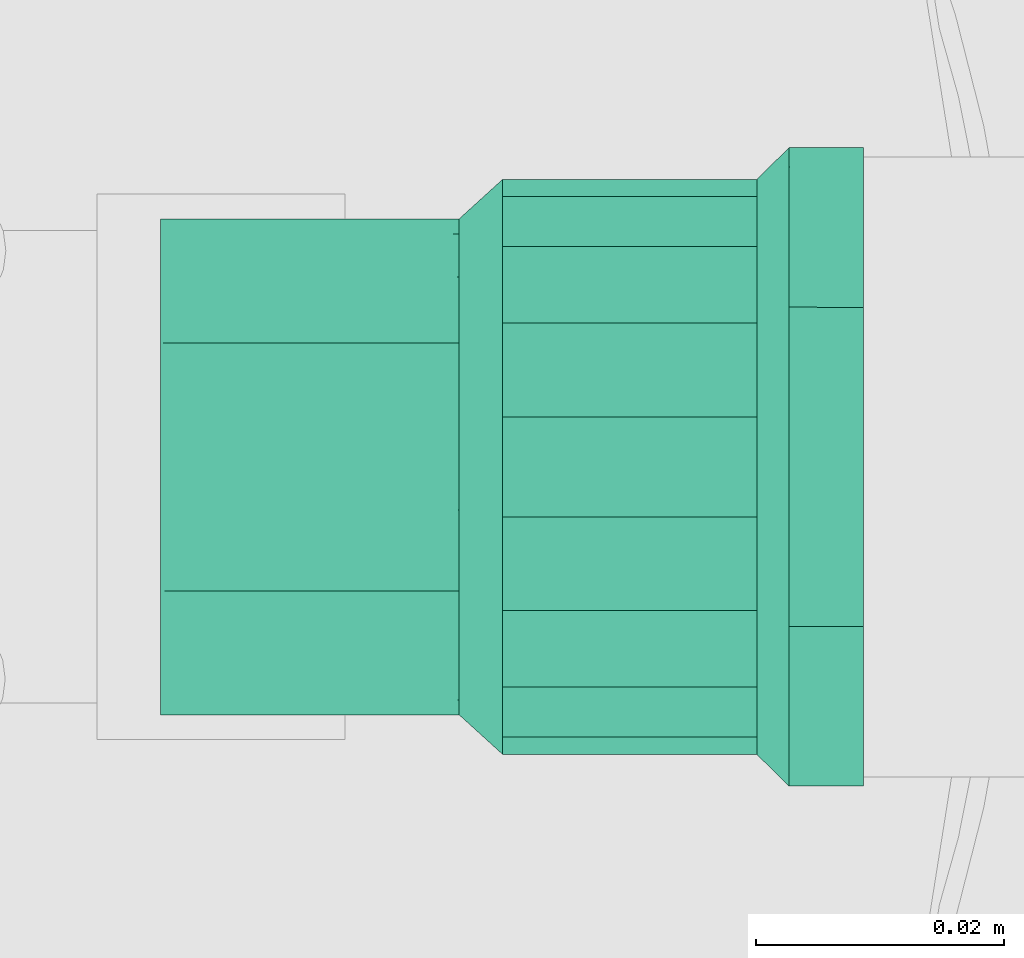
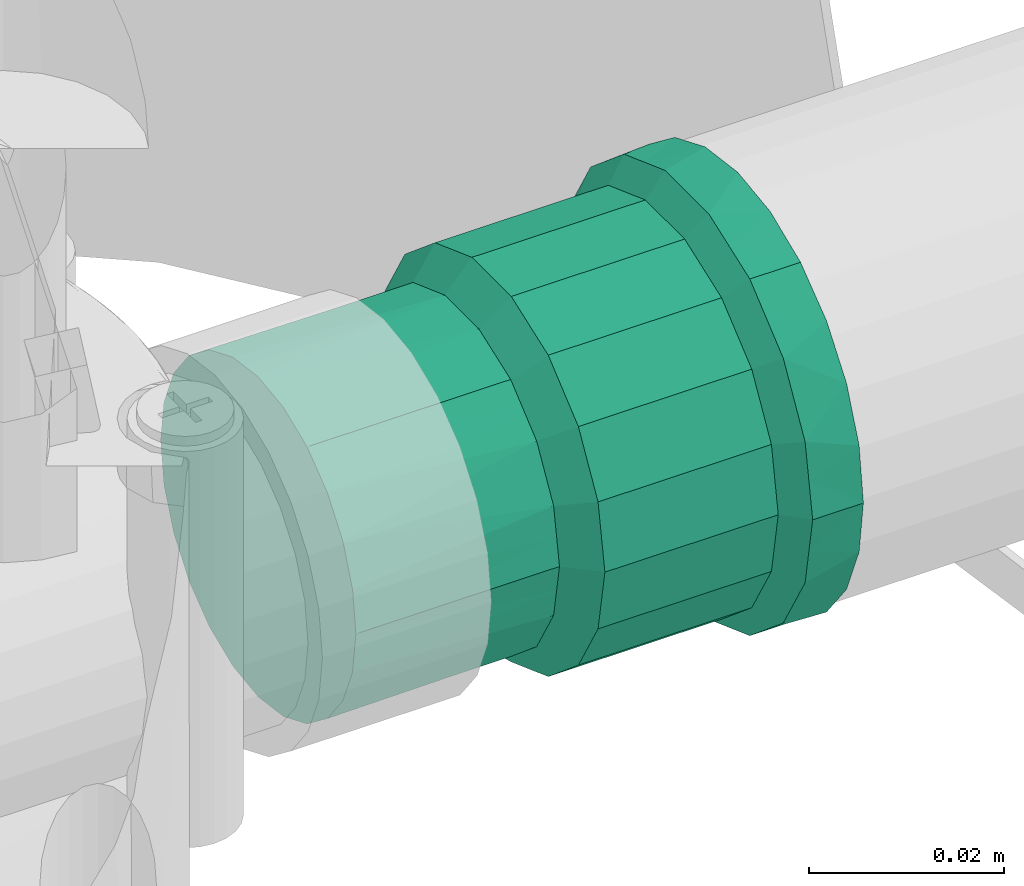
# One storey, part 160 of 166: 1 flow fitting.
"""IFC2X3 building model written with IfcOpenShell, lengths in metres."""

from ifc_helpers import new_model, entity, si_unit, converted_unit, direction, frame, origin, place, context, subcontext, project, spatial, faceted_brep, source, transform, mapped, material, type_object, type_shapes, element, save


model = new_model("IFC2X3")

# Units and contexts
model_context = context("Model", 3, precision=1e-05, world=origin(), true_north=direction((6.123233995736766e-17, 1.0)))
body_context = subcontext(model_context, "Body", "Model", "MODEL_VIEW")
ifc_project = project(units=[si_unit("LENGTHUNIT", "METRE"), converted_unit("PLANEANGLEUNIT", "DEGREE", entity("IfcPlaneAngleMeasure", 0.017453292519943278), si_unit("PLANEANGLEUNIT", "RADIAN"), dimensions=[0, 0, 0, 0, 0, 0, 0]), si_unit("AREAUNIT", "SQUARE_METRE")], contexts=[model_context])

# Site, building, storey
site_placement = place(None, origin())
site = spatial("IfcSite", under=ifc_project, at=site_placement, Name="Default", CompositionType="ELEMENT")
building_placement = place(site_placement, origin())
building = spatial("IfcBuilding", under=site, at=building_placement, Name="CASA DE ACOLHIDA PARA IDOSOS", CompositionType="ELEMENT")
storey_placement = place(building_placement, frame((0.0, 0.0, -1.7499999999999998)))
storey = spatial("IfcBuildingStorey", under=building, at=storey_placement, Name="IMPLANTAÇÃO DRENAGEM", CompositionType="ELEMENT", Elevation=-1.7499999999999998)

# Flow fitting
ifc_material = material(Name="PVC Marrom")
pipe_fitting_type = type_object("IfcPipeFittingType", Name="AF_Soldavel_Adaptador Curto com Bolsa e Rosca:Standard", PredefinedType="NOTDEFINED", material=ifc_material)
shared_shape = source(origin(), body_context, "Body", "Brep", [
    faceted_brep([(0.0, -0.012875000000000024, -0.02230015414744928), (0.0, -0.018207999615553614, -0.018207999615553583), (0.0, -0.0099999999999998, -0.017320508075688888), (0.0, -0.0051763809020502, -0.019318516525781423), (0.0, -0.006664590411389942, -0.0248725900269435), (0.0, -0.014142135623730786, -0.014142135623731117), (0.0, -0.022300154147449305, -0.01287499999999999), (0.0, -0.01732050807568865, -0.01000000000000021), (0.0, -0.0193185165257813, -0.005176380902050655), (0.0, -0.02487259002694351, -0.006664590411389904), (0.0, -0.02, 0.0), (0.0, -0.025750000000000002, 0.0), (0.0, -0.019318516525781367, 0.00517638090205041), (0.0, -0.024872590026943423, 0.006664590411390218), (0.0, -0.01732050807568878, 0.00999999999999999), (0.0, -0.02230015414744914, 0.012875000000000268), (0.0, -0.014142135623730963, 0.014142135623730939), (0.0, -0.018207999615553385, 0.018207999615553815), (0.0, -0.010000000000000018, 0.017320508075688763), (0.0, -0.012874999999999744, 0.022300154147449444), (0.0, -0.00517638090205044, 0.01931851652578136), (0.0, -0.006664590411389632, 0.024872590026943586), (0.0, 0.0, 0.02), (0.0, 0.0, 0.025750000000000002), (0.0, 0.005176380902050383, 0.019318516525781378), (0.0, 0.0066645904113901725, 0.024872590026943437), (0.0, 0.009999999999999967, 0.017320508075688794), (0.0, 0.012875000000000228, 0.022300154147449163), (0.0, 0.01414213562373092, 0.014142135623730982), (0.0, 0.01820799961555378, 0.01820799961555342), (0.0, 0.01732050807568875, 0.010000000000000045), (0.0, 0.02230015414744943, 0.012874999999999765), (0.0, 0.024872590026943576, 0.006664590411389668), (0.0, 0.01931851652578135, 0.005176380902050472), (0.0, 0.025750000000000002, 0.0), (0.0, 0.02, 0.0), (0.0, 0.02487259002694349, -0.006664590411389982), (0.0, 0.01931851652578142, -0.005176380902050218), (0.0, 0.02230015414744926, -0.012875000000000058), (0.0, 0.01732050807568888, -0.009999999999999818), (0.0, 0.01820799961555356, -0.018207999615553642), (0.0, 0.014142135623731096, -0.014142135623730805), (0.0, 0.012874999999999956, -0.022300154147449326), (0.0, 0.010000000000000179, -0.01732050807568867), (0.0, 0.006664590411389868, -0.024872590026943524), (0.0, 0.005176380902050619, -0.01931851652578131), (0.0, 0.0, -0.025750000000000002), (0.0, 0.0, -0.02), (0.005999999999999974, 0.024196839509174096, 0.008807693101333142), (0.005999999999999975, 0.024768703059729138, 0.005564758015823), (0.005999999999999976, 0.024973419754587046, 0.00440384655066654), (0.005999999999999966, 0.016298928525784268, 0.019427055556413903), (0.005999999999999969, 0.019724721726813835, 0.016552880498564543), (0.005999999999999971, 0.021960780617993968, 0.012680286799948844), (0.00599999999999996, 0.008670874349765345, 0.02383026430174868), (0.005999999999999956, 0.004468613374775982, 0.02535929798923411), (0.0059999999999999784, 0.025750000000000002, 0.0), (0.0059999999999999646, 0.01287313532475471, 0.02230123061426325), (0.00599999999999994, -0.012878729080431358, 0.022298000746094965), (0.005999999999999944, -0.008676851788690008, 0.023828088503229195), (0.005999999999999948, -0.004474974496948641, 0.02535817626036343), (0.005999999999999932, -0.019728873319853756, 0.016547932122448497), (0.005999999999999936, -0.016303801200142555, 0.019422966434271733), (0.0059999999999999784, -0.025750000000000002, 0.0), (0.005999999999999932, -0.024199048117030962, 0.008801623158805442), (0.005999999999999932, -0.021963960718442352, 0.012674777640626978), (0.0059999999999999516, -3.180561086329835e-06, 0.02535873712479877), (0.006000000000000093, -0.024199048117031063, -0.00880162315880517), (0.006000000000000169, -0.01630380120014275, -0.019422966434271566), (0.006000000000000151, -0.019728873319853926, -0.016547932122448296), (0.006000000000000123, -0.021963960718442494, -0.012674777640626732), (0.006000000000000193, -0.008676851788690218, -0.023828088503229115), (0.006000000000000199, -0.004474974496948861, -0.025358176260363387), (0.006000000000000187, -0.012878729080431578, -0.02229800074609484), (0.006000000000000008, 0.02497341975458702, -0.004403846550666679), (0.0060000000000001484, 0.012873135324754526, -0.022301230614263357), (0.006000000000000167, 0.008670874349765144, -0.023830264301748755), (0.006000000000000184, 0.004468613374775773, -0.02535929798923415), (0.006000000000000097, 0.01972472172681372, -0.016552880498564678), (0.006000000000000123, 0.016298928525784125, -0.019427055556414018), (0.006000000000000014, 0.024768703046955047, -0.005564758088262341), (0.006000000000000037, 0.024196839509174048, -0.008807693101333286), (0.006000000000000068, 0.021960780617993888, -0.012680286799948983), (0.006000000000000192, -3.1805610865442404e-06, -0.02535873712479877), (0.02909999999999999, 0.022482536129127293, 0.004068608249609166), (0.02910000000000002, 0.023200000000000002, 0.0), (0.00860000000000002, 0.023200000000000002, 0.0), (0.008600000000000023, 0.022500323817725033, 0.003967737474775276), (0.008600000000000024, 0.021800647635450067, 0.007935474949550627), (0.029099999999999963, 0.021800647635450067, 0.007935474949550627), (0.02909999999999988, 0.014684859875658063, 0.017503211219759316), (0.029099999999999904, 0.017771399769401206, 0.014913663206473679), (0.008600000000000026, 0.017771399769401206, 0.014913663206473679), (0.00860000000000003, 0.014684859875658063, 0.017503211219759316), (0.00860000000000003, 0.011598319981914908, 0.020092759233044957), (0.02909999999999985, 0.011598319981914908, 0.020092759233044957), (0.02909999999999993, 0.019786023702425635, 0.01142456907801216), (0.008600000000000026, 0.019786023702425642, 0.011424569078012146), (0.029099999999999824, 0.004026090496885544, 0.02284798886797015), (0.02909999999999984, 0.007812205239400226, 0.021470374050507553), (0.00860000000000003, 0.007812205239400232, 0.02147037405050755), (0.00860000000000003, 0.004026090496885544, 0.02284798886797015), (0.029099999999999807, -0.004031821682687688, 0.022846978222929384), (0.029099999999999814, -2.8655929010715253e-06, 0.022847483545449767), (0.00860000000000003, -2.8655929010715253e-06, 0.022847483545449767), (0.00860000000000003, -0.004031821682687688, 0.022846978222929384), (0.029099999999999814, -0.007817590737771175, 0.021468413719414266), (0.00860000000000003, -0.007817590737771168, 0.021468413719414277), (0.00860000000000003, -0.011603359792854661, 0.020089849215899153), (0.029099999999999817, -0.011603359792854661, 0.020089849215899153), (0.00860000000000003, -0.01468925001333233, 0.017499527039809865), (0.00860000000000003, -0.017775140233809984, 0.014909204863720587), (0.029099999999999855, -0.017775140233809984, 0.014909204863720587), (0.02909999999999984, -0.014689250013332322, 0.01749952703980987), (0.02909999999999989, -0.019788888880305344, 0.011419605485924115), (0.00860000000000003, -0.019788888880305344, 0.01141960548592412), (0.008600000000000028, -0.021802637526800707, 0.00793000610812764), (0.02909999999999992, -0.021802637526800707, 0.00793000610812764), (0.00860000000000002, -0.023200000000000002, 0.0), (0.02910000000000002, -0.023200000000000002, 0.0), (0.029100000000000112, -0.021802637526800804, -0.007930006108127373), (0.008600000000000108, -0.021802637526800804, -0.007930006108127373), (0.00860000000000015, 0.01468485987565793, -0.017503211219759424), (0.008600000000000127, 0.0177713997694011, -0.014913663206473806), (0.029100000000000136, 0.0177713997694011, -0.014913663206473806), (0.02910000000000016, 0.01468485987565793, -0.017503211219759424), (0.02910000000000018, 0.011598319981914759, -0.020092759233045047), (0.00860000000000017, 0.011598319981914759, -0.020092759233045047), (0.02910000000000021, -0.01160335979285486, -0.020089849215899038), (0.029100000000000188, -0.014689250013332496, -0.017499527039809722), (0.02910000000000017, -0.017775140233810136, -0.014909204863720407), (0.008600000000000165, -0.017775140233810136, -0.014909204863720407), (0.00860000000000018, -0.014689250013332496, -0.017499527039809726), (0.0086000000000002, -0.01160335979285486, -0.020089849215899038), (0.008600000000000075, 0.021800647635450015, -0.007935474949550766), (0.02910000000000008, 0.021800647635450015, -0.007935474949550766), (0.029100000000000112, 0.01978602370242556, -0.011424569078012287), (0.0086000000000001, 0.01978602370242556, -0.011424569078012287), (0.008600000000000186, 0.007812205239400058, -0.021470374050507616), (0.029100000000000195, 0.007812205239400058, -0.021470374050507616), (0.029100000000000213, 0.004026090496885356, -0.022847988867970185), (0.008600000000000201, 0.004026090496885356, -0.022847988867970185), (0.02910000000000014, -0.019788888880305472, -0.01141960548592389), (0.008600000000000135, -0.01978888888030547, -0.01141960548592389), (0.008600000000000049, 0.02250032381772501, -0.00396773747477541), (0.029100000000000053, 0.02248253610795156, -0.004068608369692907), (0.029100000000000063, 0.022258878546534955, -0.0053369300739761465), (0.029100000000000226, -0.0040318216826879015, -0.022846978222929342), (0.029100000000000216, -0.00781759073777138, -0.02146841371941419), (0.008600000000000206, -0.00781759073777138, -0.02146841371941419), (0.008600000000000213, -0.0040318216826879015, -0.022846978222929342), (0.02910000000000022, -2.8655929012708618e-06, -0.022847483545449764), (0.008600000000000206, -2.8655929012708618e-06, -0.022847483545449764), (0.056699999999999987, -0.010000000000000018, -0.017320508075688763), (0.056699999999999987, -0.00517638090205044, -0.01931851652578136), (0.056699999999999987, 0.0, -0.02), (0.056699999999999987, 0.005176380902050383, -0.019318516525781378), (0.056699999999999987, 0.009999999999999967, -0.017320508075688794), (0.056699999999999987, 0.01414213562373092, -0.014142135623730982), (0.056699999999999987, 0.01732050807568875, -0.010000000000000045), (0.056699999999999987, 0.01931851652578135, -0.005176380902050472), (0.056699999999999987, 0.02, 0.0), (0.056699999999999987, 0.01931851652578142, 0.005176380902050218), (0.056699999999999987, 0.01732050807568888, 0.009999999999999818), (0.056699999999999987, 0.014142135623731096, 0.014142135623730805), (0.056699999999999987, 0.010000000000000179, 0.01732050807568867), (0.056699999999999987, 0.005176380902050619, 0.01931851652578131), (0.056699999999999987, 0.0, 0.02), (0.056699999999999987, -0.0051763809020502, 0.019318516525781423), (0.056699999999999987, -0.0099999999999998, 0.017320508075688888), (0.056699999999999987, -0.014142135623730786, 0.014142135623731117), (0.056699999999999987, -0.01732050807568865, 0.01000000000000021), (0.056699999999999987, -0.0193185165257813, 0.005176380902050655), (0.056699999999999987, -0.02, 0.0), (0.056699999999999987, -0.019318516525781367, -0.00517638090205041), (0.056699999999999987, -0.01732050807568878, -0.009999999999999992), (0.056699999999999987, -0.014142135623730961, -0.01414213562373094), (0.03261999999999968, 0.0067346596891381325, 0.018508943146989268), (0.03261999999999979, 0.015320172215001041, 0.012856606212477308), (0.03261999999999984, 0.017056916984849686, 0.0098487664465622), (0.032619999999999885, 0.01879366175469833, 0.006840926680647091), (0.032619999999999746, 0.012659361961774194, 0.015088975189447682), (0.032619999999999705, 0.009998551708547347, 0.01732134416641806), (0.032619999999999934, 0.01939683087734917, 0.003420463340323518), (0.03261999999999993, 0.019188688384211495, 0.004600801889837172), (0.03261999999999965, 0.0034707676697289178, 0.019696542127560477), (0.032619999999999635, -2.470338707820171e-06, 0.019696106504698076), (0.03261999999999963, -0.0034757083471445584, 0.019695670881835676), (0.03261999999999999, 0.02, 0.0), (0.032619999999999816, -0.01879537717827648, 0.006836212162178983), (0.03261999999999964, -0.006739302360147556, 0.018507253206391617), (0.032619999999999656, -0.010002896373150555, 0.017318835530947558), (0.03261999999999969, -0.012663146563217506, 0.0150857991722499), (0.03261999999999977, -0.01705938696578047, 0.009844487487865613), (0.03261999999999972, -0.015323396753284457, 0.012852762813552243), (0.03261999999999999, -0.02, 0.0), (0.03262000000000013, -0.015323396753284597, -0.012852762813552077), (0.0326200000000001, -0.017059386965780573, -0.009844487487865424), (0.03262000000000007, -0.018795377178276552, -0.006836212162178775), (0.03262000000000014, -0.012663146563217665, -0.015085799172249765), (0.032620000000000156, -0.010002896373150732, -0.017318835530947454), (0.03262000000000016, -0.006739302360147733, -0.01850725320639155), (0.03262000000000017, -0.0034757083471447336, -0.019695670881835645), (0.03262000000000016, -2.4703387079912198e-06, -0.019696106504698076), (0.032620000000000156, 0.0034707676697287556, -0.019696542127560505), (0.03262000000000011, 0.012659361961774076, -0.015088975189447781), (0.032620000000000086, 0.015320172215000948, -0.01285660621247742), (0.03262000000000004, 0.018793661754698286, -0.006840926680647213), (0.03262000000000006, 0.01705691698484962, -0.009848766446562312), (0.03262000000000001, 0.01939683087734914, -0.0034204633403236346), (0.03262000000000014, 0.006734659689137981, -0.018508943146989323), (0.03262000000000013, 0.009998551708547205, -0.017321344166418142), (0.00860000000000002, 0.019318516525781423, -0.005176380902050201), (0.02910000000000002, 0.019318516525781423, -0.005176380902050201), (0.02910000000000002, 0.02, 0.0), (0.00860000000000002, 0.02, 0.0), (0.0059999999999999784, 0.02, 0.0), (0.0059999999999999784, 0.019318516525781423, -0.005176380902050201), (0.00860000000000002, 0.017320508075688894, -0.009999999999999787), (0.02910000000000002, 0.017320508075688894, -0.009999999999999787), (0.0059999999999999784, 0.017320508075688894, -0.009999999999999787), (0.02910000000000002, 0.010000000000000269, -0.017320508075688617), (0.02910000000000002, 0.014142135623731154, -0.014142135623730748), (0.00860000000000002, 0.014142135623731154, -0.014142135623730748), (0.0059999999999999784, 0.014142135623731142, -0.01414213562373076), (0.0059999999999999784, 0.010000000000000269, -0.017320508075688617), (0.00860000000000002, 0.010000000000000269, -0.017320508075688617), (0.02910000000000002, 0.005176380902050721, -0.019318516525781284), (0.0059999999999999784, 0.005176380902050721, -0.019318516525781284), (0.00860000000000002, 0.005176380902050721, -0.019318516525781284), (0.02910000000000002, 0.0, -0.02), (0.0059999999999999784, 0.0, -0.02), (0.00860000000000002, 0.0, -0.02), (0.00860000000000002, -0.005176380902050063, -0.01931851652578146), (0.02910000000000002, -0.005176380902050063, -0.01931851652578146), (0.0059999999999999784, -0.005176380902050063, -0.01931851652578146), (0.00860000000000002, -0.009999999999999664, -0.017320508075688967), (0.02910000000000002, -0.009999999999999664, -0.017320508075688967), (0.0059999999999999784, -0.009999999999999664, -0.017320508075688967), (0.02910000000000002, -0.017320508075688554, -0.010000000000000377), (0.02910000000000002, -0.014142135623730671, -0.01414213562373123), (0.00860000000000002, -0.014142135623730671, -0.01414213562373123), (0.0059999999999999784, -0.01414213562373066, -0.014142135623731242), (0.0059999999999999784, -0.017320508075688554, -0.010000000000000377), (0.00860000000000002, -0.017320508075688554, -0.010000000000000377), (0.02910000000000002, -0.019318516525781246, -0.00517638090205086), (0.0059999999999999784, -0.019318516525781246, -0.00517638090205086), (0.00860000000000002, -0.019318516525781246, -0.00517638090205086), (0.00860000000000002, -0.02, 0.0), (0.02910000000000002, -0.02, 0.0), (0.0059999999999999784, -0.02, 0.0), (0.00860000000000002, -0.01931851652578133, 0.005176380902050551), (0.02910000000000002, -0.01931851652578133, 0.005176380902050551), (0.0059999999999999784, -0.01931851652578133, 0.005176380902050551), (0.00860000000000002, -0.017320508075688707, 0.010000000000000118), (0.02910000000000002, -0.017320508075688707, 0.010000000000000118), (0.0059999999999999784, -0.017320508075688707, 0.010000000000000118), (0.02910000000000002, -0.009999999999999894, 0.017320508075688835), (0.02910000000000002, -0.014142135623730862, 0.014142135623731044), (0.00860000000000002, -0.014142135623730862, 0.014142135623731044), (0.0059999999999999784, -0.014142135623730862, 0.014142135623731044), (0.0059999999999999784, -0.009999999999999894, 0.017320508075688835), (0.00860000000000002, -0.009999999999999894, 0.017320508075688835), (0.02910000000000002, -0.005176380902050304, 0.019318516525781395), (0.0059999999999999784, -0.005176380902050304, 0.019318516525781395), (0.00860000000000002, -0.005176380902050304, 0.019318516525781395), (0.02910000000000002, 0.0, 0.02), (0.0059999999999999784, 0.0, 0.02), (0.00860000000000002, 0.0, 0.02), (0.0059999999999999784, 0.005176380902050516, 0.01931851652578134), (0.00860000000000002, 0.005176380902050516, 0.01931851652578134), (0.02910000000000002, 0.005176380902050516, 0.01931851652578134), (0.02910000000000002, 0.017320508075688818, 0.009999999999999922), (0.00860000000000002, 0.017320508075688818, 0.009999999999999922), (0.0059999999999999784, 0.017320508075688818, 0.009999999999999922), (0.0059999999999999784, 0.019318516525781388, 0.005176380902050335), (0.00860000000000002, 0.019318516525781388, 0.005176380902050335), (0.02910000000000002, 0.019318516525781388, 0.005176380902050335), (0.02910000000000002, 0.014142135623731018, 0.014142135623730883), (0.00860000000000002, 0.014142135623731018, 0.014142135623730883), (0.0059999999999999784, 0.014142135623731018, 0.014142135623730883), (0.0059999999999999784, 0.010000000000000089, 0.017320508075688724), (0.00860000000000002, 0.010000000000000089, 0.017320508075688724), (0.02910000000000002, 0.010000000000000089, 0.017320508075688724)], [[[0, 1, 2]], [[0, 2, 3]], [[3, 4, 0]], [[2, 1, 5]], [[6, 5, 1]], [[7, 5, 6]], [[8, 7, 6]], [[8, 6, 9]], [[8, 9, 10]], [[10, 9, 11]], [[12, 10, 11]], [[12, 11, 13]], [[14, 12, 13]], [[14, 13, 15]], [[16, 14, 15]], [[15, 17, 16]], [[17, 18, 16]], [[18, 17, 19]], [[18, 19, 20]], [[21, 20, 19]], [[20, 21, 22]], [[22, 21, 23]], [[23, 24, 22]], [[24, 23, 25]], [[24, 25, 26]], [[27, 26, 25]], [[27, 28, 26]], [[27, 29, 28]], [[30, 28, 29]], [[31, 30, 29]], [[32, 30, 31]], [[33, 30, 32]], [[33, 32, 34]], [[34, 35, 33]], [[36, 35, 34]], [[36, 37, 35]], [[37, 36, 38]], [[39, 37, 38]], [[39, 38, 40]], [[39, 40, 41]], [[40, 42, 41]], [[41, 42, 43]], [[43, 42, 44]], [[44, 45, 43]], [[46, 45, 44]], [[4, 47, 46]], [[46, 47, 45]], [[4, 3, 47]], [[32, 48, 49, 50]], [[51, 52, 29]], [[53, 48, 31, 52]], [[54, 25, 55]], [[48, 32, 31]], [[34, 50, 56]], [[27, 57, 51]], [[29, 27, 51]], [[29, 52, 31]], [[19, 58, 59]], [[21, 19, 59]], [[54, 57, 27]], [[25, 54, 27]], [[55, 25, 23]], [[32, 50, 34]], [[59, 60, 21]], [[61, 62, 17]], [[63, 64, 13]], [[65, 61, 15, 64]], [[11, 63, 13]], [[17, 62, 19]], [[66, 55, 23, 60]], [[21, 60, 23]], [[61, 17, 15]], [[19, 62, 58]], [[13, 64, 15]], [[67, 63, 9]], [[68, 69, 1]], [[70, 67, 6, 69]], [[71, 4, 72]], [[67, 9, 6]], [[63, 11, 9]], [[4, 71, 0]], [[0, 73, 68]], [[1, 69, 6]], [[36, 34, 74]], [[42, 75, 76]], [[71, 73, 0]], [[44, 42, 76]], [[72, 4, 46]], [[1, 0, 68]], [[76, 77, 44]], [[78, 79, 40]], [[36, 74, 80, 81]], [[82, 78, 38, 81]], [[36, 81, 38]], [[40, 79, 42]], [[83, 72, 46, 77]], [[44, 77, 46]], [[78, 40, 38]], [[42, 79, 75]], [[34, 56, 74]], [[84, 85, 86, 87, 88, 89]], [[90, 91, 92, 93, 94, 95]], [[91, 96, 89, 88, 97, 92]], [[98, 99, 95, 94, 100, 101]], [[102, 103, 98, 101, 104, 105]], [[106, 102, 105, 107, 108, 109]], [[110, 111, 112, 113, 109, 108]], [[114, 112, 111, 115, 116, 117]], [[116, 118, 119, 117]], [[120, 119, 118, 121]], [[122, 123, 124, 125, 126, 127]], [[128, 129, 130, 131, 132, 133]], [[134, 135, 136, 124, 123, 137]], [[138, 127, 126, 139, 140, 141]], [[130, 142, 120, 121, 143, 131]], [[144, 86, 85, 145, 146, 135, 134]], [[147, 148, 128, 133, 149, 150]], [[140, 151, 147, 150, 152, 141]], [[153, 154, 155, 156, 157, 158, 159, 160, 161, 162, 163, 164, 165, 166, 167, 168, 169, 170, 171, 172, 173, 174, 175, 176]], [[166, 165, 177]], [[178, 164, 163]], [[179, 178, 163, 180]], [[165, 181, 182]], [[162, 183, 184, 180]], [[177, 185, 166]], [[181, 164, 178]], [[186, 187, 167, 185]], [[164, 181, 165]], [[162, 161, 183]], [[161, 188, 183]], [[162, 180, 163]], [[167, 187, 168]], [[189, 172, 171]], [[168, 190, 169]], [[169, 191, 192]], [[193, 189, 171, 194]], [[173, 172, 195]], [[168, 187, 190]], [[190, 191, 169]], [[170, 194, 171]], [[165, 182, 177]], [[192, 194, 170]], [[170, 169, 192]], [[189, 195, 172]], [[166, 185, 167]], [[174, 173, 195]], [[196, 176, 175]], [[197, 196, 175, 198]], [[153, 199, 200]], [[174, 195, 198]], [[201, 202, 154]], [[199, 176, 196]], [[203, 204, 155, 202]], [[154, 202, 155]], [[176, 199, 153]], [[158, 157, 205]], [[154, 153, 201]], [[153, 200, 201]], [[158, 206, 159]], [[174, 198, 175]], [[207, 160, 159]], [[208, 207, 159, 206]], [[160, 209, 161]], [[209, 188, 161]], [[204, 210, 156]], [[156, 155, 204]], [[157, 210, 211]], [[156, 210, 157]], [[205, 206, 158]], [[160, 207, 209]], [[157, 211, 205]], [[212, 213, 214, 215, 216, 35, 37, 217]], [[218, 219, 213, 212, 217, 37, 39, 220]], [[221, 222, 223, 224, 41, 43, 225, 226]], [[218, 220, 39, 41, 224, 223, 222, 219]], [[227, 221, 226, 225, 43, 45, 228, 229]], [[230, 227, 229, 228, 45, 47, 231, 232]], [[233, 234, 230, 232, 231, 47, 3, 235]], [[236, 237, 234, 233, 235, 3, 2, 238]], [[239, 240, 241, 242, 5, 7, 243, 244]], [[236, 238, 2, 5, 242, 241, 240, 237]], [[245, 239, 244, 243, 7, 8, 246, 247]], [[248, 249, 245, 247, 246, 8, 10, 250]], [[251, 252, 249, 248, 250, 10, 12, 253]], [[254, 255, 252, 251, 253, 12, 14, 256]], [[257, 258, 259, 260, 16, 18, 261, 262]], [[254, 256, 14, 16, 260, 259, 258, 255]], [[263, 257, 262, 261, 18, 20, 264, 265]], [[266, 263, 265, 264, 20, 22, 267, 268]], [[268, 267, 22, 24, 269, 270, 271, 266]], [[272, 273, 274, 30, 33, 275, 276, 277]], [[273, 272, 278, 279, 280, 28, 30, 274]], [[277, 276, 275, 33, 35, 216, 215, 214]], [[271, 270, 269, 24, 26, 281, 282, 283]], [[283, 282, 281, 26, 28, 280, 279, 278]], [[63, 67, 121, 118]], [[68, 73, 133, 132, 131, 69]], [[149, 133, 73, 71, 72, 150]], [[70, 69, 131, 143, 121, 67]], [[76, 75, 127, 138, 141, 77]], [[82, 81, 134, 137, 123, 78]], [[144, 134, 81, 80, 74, 56, 86]], [[141, 152, 150, 72, 83, 77]], [[123, 122, 127, 75, 79, 78]], [[87, 86, 56, 50, 49, 48, 88]], [[97, 88, 48, 53, 52, 92]], [[93, 92, 52, 51, 57, 94]], [[57, 54, 55, 101, 100, 94]], [[66, 60, 105, 104, 101, 55]], [[58, 108, 107, 105, 60, 59]], [[63, 118, 116, 64]], [[61, 65, 64, 116, 115, 111]], [[58, 62, 61, 111, 110, 108]], [[227, 230, 234, 237, 240, 239, 245, 249, 252, 255, 258, 257, 263, 266, 271, 283, 278, 272, 277, 214, 213, 219, 222, 221]], [[180, 184, 183, 188, 85, 84, 89]], [[99, 98, 185, 177, 182, 95]], [[182, 181, 178, 91, 90, 95]], [[178, 179, 180, 89, 96, 91]], [[103, 102, 187, 186, 185, 98]], [[114, 117, 189, 193, 194, 112]], [[106, 109, 191, 190, 187, 102]], [[117, 119, 195, 189]], [[194, 192, 191, 109, 113, 112]], [[119, 120, 198, 195]], [[201, 200, 128, 148, 147, 202]], [[129, 128, 200, 199, 196, 130]], [[196, 197, 198, 120, 142, 130]], [[139, 126, 211, 210, 204, 140]], [[136, 135, 207, 208, 206, 124]], [[209, 207, 135, 146, 145, 85, 188]], [[204, 203, 202, 147, 151, 140]], [[206, 205, 211, 126, 125, 124]]]),
])
type_shapes(pipe_fitting_type, [shared_shape])
flow_fitting_placement = place(storey_placement, frame((-49.022586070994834, 49.254942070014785, -0.2), z_axis=(0.0, 0.0, 1.0), x_axis=(-1.0, 0.0, 0.0)))
element("IfcFlowFitting", 1, at=flow_fitting_placement, inside=storey, type_object=pipe_fitting_type, material=ifc_material, Name="AF_Soldavel_Adaptador Curto com Bolsa e Rosca:Standard", ObjectType="AF_Soldavel_Adaptador Curto com Bolsa e Rosca:Standard", context=body_context, shape_type="MappedRepresentation", body=[
    mapped(shared_shape, transform((0.0, 0.0, 0.0), scale=1.0)),
])

save(model, "model.ifc")
